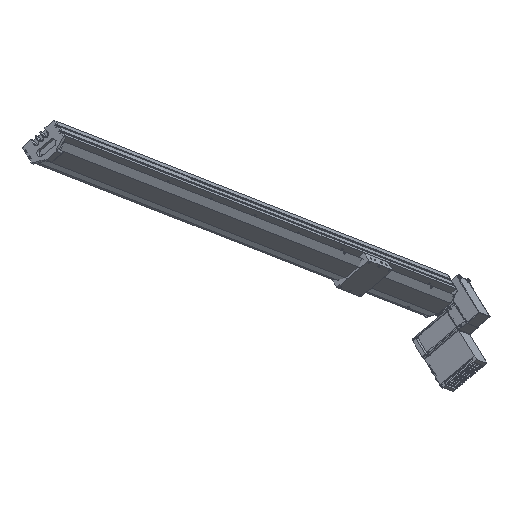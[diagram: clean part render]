
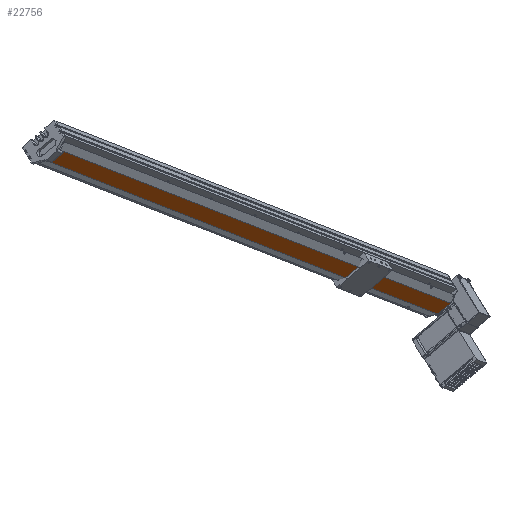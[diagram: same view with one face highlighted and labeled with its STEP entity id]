
A CAD part, top view. The second image highlights one B-rep face of the part: STEP entity #22756.
In plain terms, the highlighted planar face has unit normal (0.464, -0.763, 0.45) as drawn and (0, 1, 0) by its records, which use the part's own axes.
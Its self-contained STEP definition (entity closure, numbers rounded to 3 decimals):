
#15586 = LINE ( 'NONE', #15611, #15610 ) ;
#15609 = DIRECTION ( 'NONE',  ( 0., 0., -1. ) ) ;
#15610 = VECTOR ( 'NONE', #15609, 1000. ) ;
#15611 = CARTESIAN_POINT ( 'NONE',  ( 20., 61.75, 1800. ) ) ;
#15824 = CARTESIAN_POINT ( 'NONE',  ( 20., 61.75, 0. ) ) ;
#15917 = CARTESIAN_POINT ( 'NONE',  ( 20., 61.75, 5.114 ) ) ;
#17181 = CARTESIAN_POINT ( 'NONE',  ( -20., 61.75, 1800. ) ) ;
#17182 = LINE ( 'NONE', #17181, #17348 ) ;
#17199 = DIRECTION ( 'NONE',  ( 0., 0., -1. ) ) ;
#17200 = VECTOR ( 'NONE', #17199, 1000. ) ;
#17201 = CARTESIAN_POINT ( 'NONE',  ( 20., 61.75, 1800. ) ) ;
#17202 = CARTESIAN_POINT ( 'NONE',  ( 20., 61.75, 1800. ) ) ;
#17203 = LINE ( 'NONE', #17202, #17331 ) ;
#17208 = DIRECTION ( 'NONE',  ( 0., 0., -1. ) ) ;
#17211 = LINE ( 'NONE', #17201, #17200 ) ;
#17261 = CARTESIAN_POINT ( 'NONE',  ( 20., 61.75, 0. ) ) ;
#17262 = LINE ( 'NONE', #17261, #17371 ) ;
#17265 = CARTESIAN_POINT ( 'NONE',  ( 20., 61.75, 1800. ) ) ;
#17330 = DIRECTION ( 'NONE',  ( -1., 0., 0. ) ) ;
#17331 = VECTOR ( 'NONE', #17330, 1000. ) ;
#17348 = VECTOR ( 'NONE', #17208, 1000. ) ;
#17359 = DIRECTION ( 'NONE',  ( 0., 0., -1. ) ) ;
#17360 = DIRECTION ( 'NONE',  ( 0., -1., 0. ) ) ;
#17363 = CARTESIAN_POINT ( 'NONE',  ( 20., 61.75, 1800. ) ) ;
#17367 = AXIS2_PLACEMENT_3D ( 'NONE', #17265, #17360, #17359 ) ;
#17369 = PLANE ( 'NONE',  #17367 ) ;
#17370 = DIRECTION ( 'NONE',  ( -1., 0., 0. ) ) ;
#17371 = VECTOR ( 'NONE', #17370, 1000. ) ;
#17372 = FACE_OUTER_BOUND ( 'NONE', #22543, .T. ) ;
#17415 = CARTESIAN_POINT ( 'NONE',  ( -20., 61.75, 1800. ) ) ;
#17488 = CARTESIAN_POINT ( 'NONE',  ( -20., 61.75, 0. ) ) ;
#21599 = EDGE_CURVE ( 'NONE', #21763, #21764, #15586, .T. ) ;
#21763 = VERTEX_POINT ( 'NONE', #15917 ) ;
#21764 = VERTEX_POINT ( 'NONE', #15824 ) ;
#22390 = ORIENTED_EDGE ( 'NONE', *, *, #22694, .F. ) ;
#22543 = EDGE_LOOP ( 'NONE', ( #22803, #22759, #22390, #22818, #22554 ) ) ;
#22554 = ORIENTED_EDGE ( 'NONE', *, *, #21599, .T. ) ;
#22669 = EDGE_CURVE ( 'NONE', #22802, #22807, #17182, .T. ) ;
#22673 = EDGE_CURVE ( 'NONE', #22757, #21763, #17211, .T. ) ;
#22694 = EDGE_CURVE ( 'NONE', #22757, #22802, #17203, .T. ) ;
#22751 = EDGE_CURVE ( 'NONE', #21764, #22807, #17262, .T. ) ;
#22756 = ADVANCED_FACE ( 'NONE', ( #17372 ), #17369, .F. ) ;
#22757 = VERTEX_POINT ( 'NONE', #17363 ) ;
#22759 = ORIENTED_EDGE ( 'NONE', *, *, #22669, .F. ) ;
#22802 = VERTEX_POINT ( 'NONE', #17415 ) ;
#22803 = ORIENTED_EDGE ( 'NONE', *, *, #22751, .T. ) ;
#22807 = VERTEX_POINT ( 'NONE', #17488 ) ;
#22818 = ORIENTED_EDGE ( 'NONE', *, *, #22673, .T. ) ;
